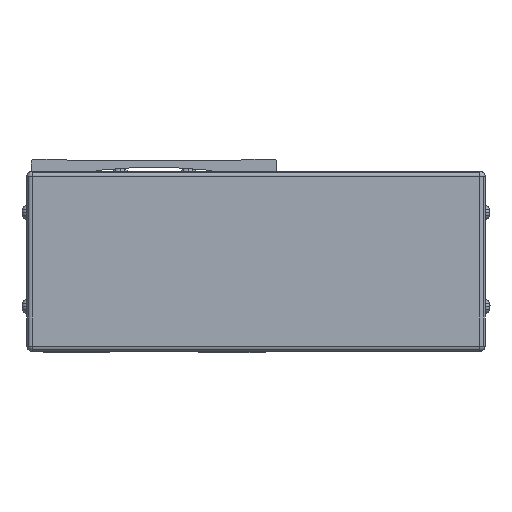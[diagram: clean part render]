
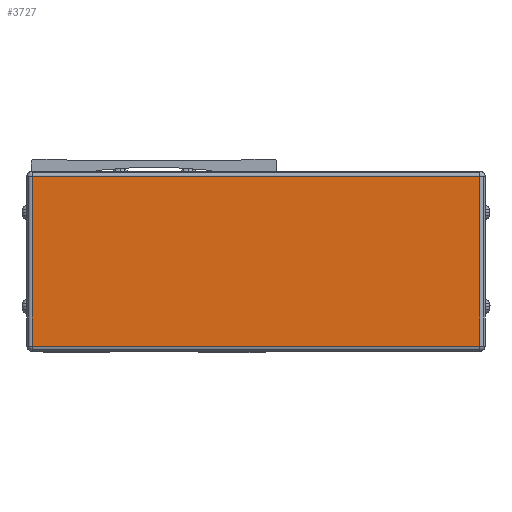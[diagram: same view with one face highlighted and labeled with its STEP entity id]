
A CAD part, front view. The second image highlights one B-rep face of the part: STEP entity #3727.
In plain terms, the highlighted planar face has unit normal (0, -1, 0).
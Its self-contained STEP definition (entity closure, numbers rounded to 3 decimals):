
#3727=ADVANCED_FACE('',(#8517),#8518,.T.);
#8517=FACE_OUTER_BOUND('',#15399,.T.);
#8518=PLANE('',#15400);
#15399=EDGE_LOOP('',(#27287,#27288,#27289,#27290));
#15400=AXIS2_PLACEMENT_3D('',#27291,#27292,#27293);
#27287=ORIENTED_EDGE('',*,*,#37486,.F.);
#27288=ORIENTED_EDGE('',*,*,#41175,.F.);
#27289=ORIENTED_EDGE('',*,*,#41059,.F.);
#27290=ORIENTED_EDGE('',*,*,#41176,.F.);
#27291=CARTESIAN_POINT('',(39.,-113.778,-42.5));
#27292=DIRECTION('',(0.0,-1.0,0.0));
#27293=DIRECTION('',(1.0,0.0,0.0));
#37486=EDGE_CURVE('',#43866,#44875,#44876,.T.);
#41059=EDGE_CURVE('',#49324,#50629,#50630,.T.);
#41175=EDGE_CURVE('',#50629,#43866,#50779,.T.);
#41176=EDGE_CURVE('',#44875,#49324,#50780,.T.);
#43866=VERTEX_POINT('',#54064);
#44875=VERTEX_POINT('',#55515);
#44876=LINE('',#55516,#55517);
#49324=VERTEX_POINT('',#62293);
#50629=VERTEX_POINT('',#64261);
#50630=LINE('',#64262,#64263);
#50779=LINE('',#64486,#64487);
#50780=LINE('',#64488,#64489);
#54064=CARTESIAN_POINT('',(124.7,-113.778,-40.5));
#55515=CARTESIAN_POINT('',(-46.7,-113.778,-40.5));
#55516=CARTESIAN_POINT('',(39.,-113.778,-40.5));
#55517=VECTOR('',#69757,10.0);
#62293=CARTESIAN_POINT('',(-46.7,-113.778,24.5));
#64261=CARTESIAN_POINT('',(124.7,-113.778,24.5));
#64262=CARTESIAN_POINT('',(39.,-113.778,24.5));
#64263=VECTOR('',#74115,10.0);
#64486=CARTESIAN_POINT('',(124.7,-113.778,-42.5));
#64487=VECTOR('',#74250,10.0);
#64488=CARTESIAN_POINT('',(-46.7,-113.778,-42.5));
#64489=VECTOR('',#74251,10.0);
#69757=DIRECTION('',(-1.0,0.0,0.0));
#74115=DIRECTION('',(1.0,0.0,0.0));
#74250=DIRECTION('',(0.0,0.0,-1.0));
#74251=DIRECTION('',(0.0,0.0,1.0));
